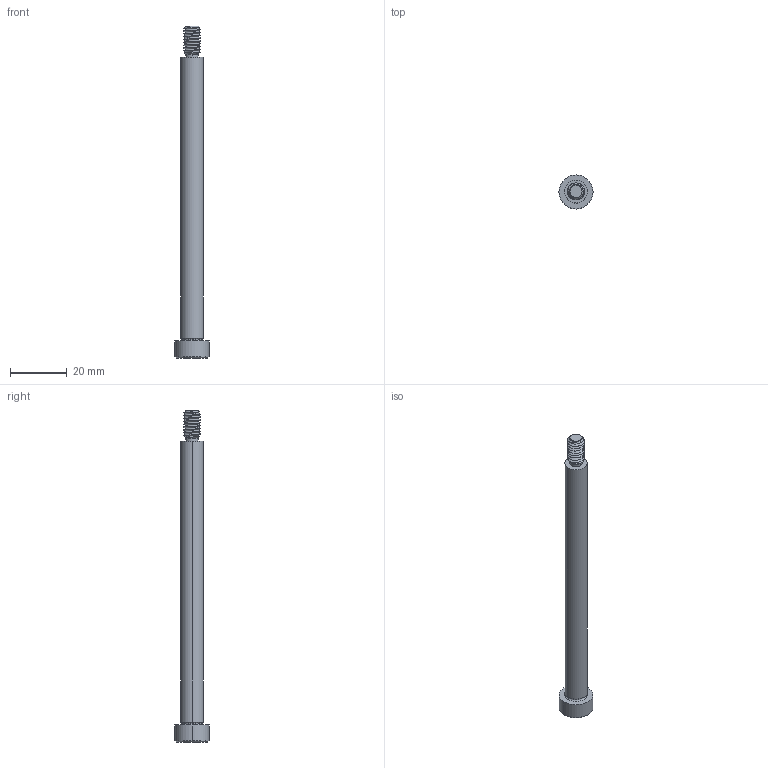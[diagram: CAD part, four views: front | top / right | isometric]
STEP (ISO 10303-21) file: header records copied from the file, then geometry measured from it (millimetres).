
FILE_DESCRIPTION (( 'STEP AP203' ), '1' );
FILE_NAME ('P0130.080-100-B2.step', '2021-11-09T21:46:34', ( '' ), ( '' ), 'SwSTEP 2.0', 'SolidWorks 2019', '' );
FILE_SCHEMA (( 'CONFIG_CONTROL_DESIGN' ));
Length unit declared in the file: millimetre
Products named in the file (1): P0130.080-100-B2
Bounding box: 12 x 12 x 117 mm (x, y, z)
Volume: 5863.2 mm3; surface area: 3346.1 mm2
Topology: 1 solids, 1 shells, 60 faces, 142 edges, 85 vertices
Faces by surface type: cylinder 24, plane 16, cone 14, torus 4, bspline 2
Entity records: 4245 total; most frequent: CARTESIAN_POINT 2899, ORIENTED_EDGE 280, DIRECTION 247, EDGE_CURVE 140, AXIS2_PLACEMENT_3D 99, VERTEX_POINT 85, EDGE_LOOP 63, FACE_OUTER_BOUND 60
